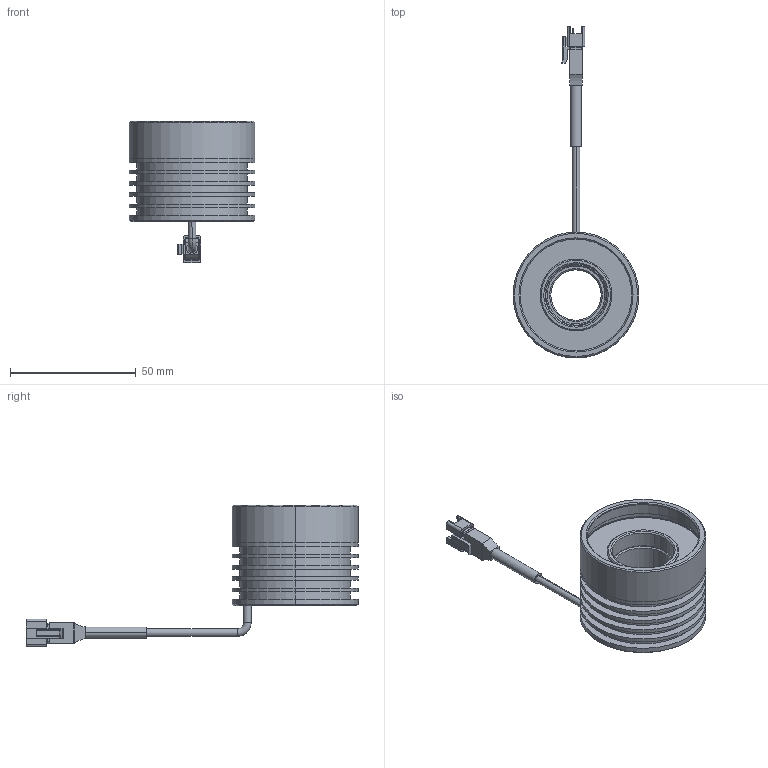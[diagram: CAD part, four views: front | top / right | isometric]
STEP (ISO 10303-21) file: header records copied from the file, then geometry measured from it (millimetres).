
FILE_DESCRIPTION (( 'STEP AP203' ), '1' );
FILE_NAME ('VOR-5026W-TCH65CO _ Drawing _ L1654A-A00101.STEP', '2025-10-23T06:20:02', ( '' ), ( '' ), 'SwSTEP 2.0', 'SolidWorks 2020', '' );
FILE_SCHEMA (( 'CONFIG_CONTROL_DESIGN' ));
Length unit declared in the file: millimetre
Products named in the file (5): JST SMR-03V-B + 3mm 24AWG CABLE; VOR-5026W-TCH65CO _ TMR1033D305A _ 轉接環 _L1654A-M00501; VHAT-5026W-TCH65 _ TMR1033D301A _ 基座 _L1564A-M00101; VOR-5026W-TCH65CO _ Drawing _ L1654A-A00101; VHAT-5026W-TCH65 _ TMR1033D303A _ 外框圈 _L1564A-M00301
Assembly tree (4 placements, depth 2):
  VOR-5026W-TCH65CO _ Drawing _ L1654A-A00101
    VHAT-5026W-TCH65 _ TMR1033D303A _ 外框圈 _L1564A-M00301
    VHAT-5026W-TCH65 _ TMR1033D301A _ 基座 _L1564A-M00101
    JST SMR-03V-B + 3mm 24AWG CABLE
    VOR-5026W-TCH65CO _ TMR1033D305A _ 轉接環 _L1654A-M00501
Bounding box: 50 x 132 x 56.42 mm (x, y, z)
Volume: 43818.2 mm3; surface area: 27102.8 mm2
Topology: 5 solids, 5 shells, 357 faces, 874 edges, 560 vertices
Faces by surface type: plane 163, cylinder 159, cone 16, bspline 13, torus 6
Entity records: 13711 total; most frequent: CARTESIAN_POINT 5062, ORIENTED_EDGE 1748, DIRECTION 1635, EDGE_CURVE 874, VERTEX_POINT 560, AXIS2_PLACEMENT_3D 553, LINE 529, VECTOR 529
